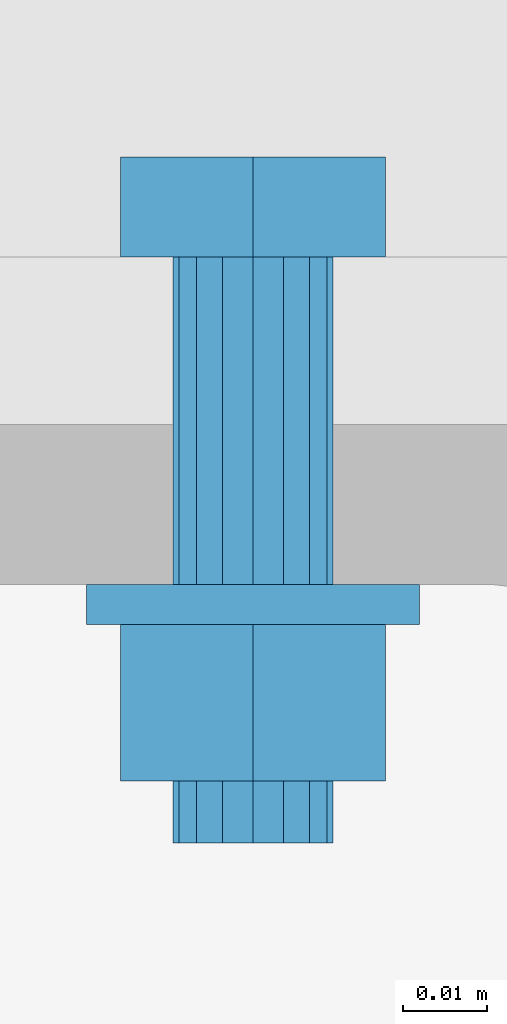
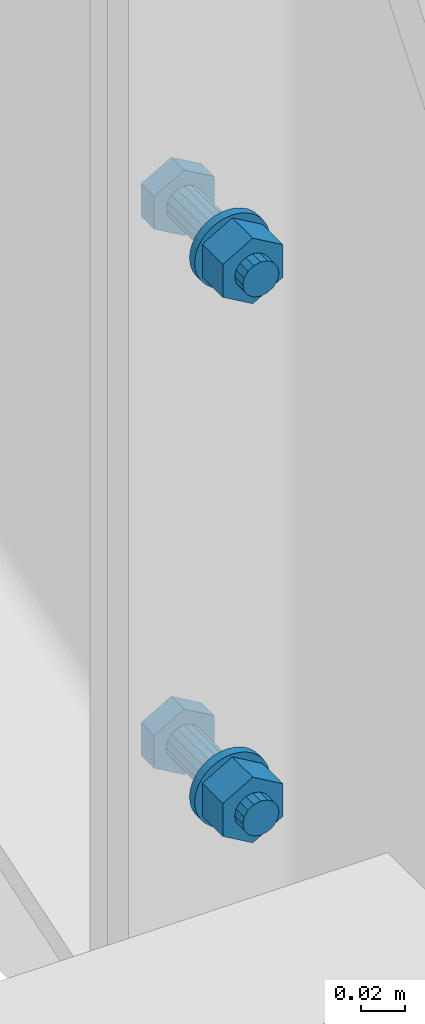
# Not in any storey, part 14 of 51: 2 mechanical fasteners.
"""IFC4 model written with IfcOpenShell, lengths in feet."""

from ifc_helpers import new_model, entity, si_unit, converted_unit, direction, origin, origin_with_axes, place, context, project, spatial, faceted_brep, element, save


model = new_model("IFC4")

# Units and contexts
model_context = context("Model", 3, precision=0.0001, world=origin(), true_north=direction((6.123233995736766e-17, 1.0)))
ifc_project = project(units=[converted_unit("LENGTHUNIT", "FOOT", entity("IfcLengthMeasure", 0.3048), si_unit("LENGTHUNIT", "METRE"), dimensions=[1, 0, 0, 0, 0, 0, 0]), converted_unit("AREAUNIT", "SQUARE INCH", entity("IfcAreaMeasure", 0.0006451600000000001), si_unit("AREAUNIT", "SQUARE_METRE"), dimensions=[2, 0, 0, 0, 0, 0, 0]), converted_unit("PLANEANGLEUNIT", "DEGREE", entity("IfcPlaneAngleMeasure", 0.017453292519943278), si_unit("PLANEANGLEUNIT", "RADIAN"), dimensions=[0, 0, 0, 0, 0, 0, 0]), si_unit("VOLUMEUNIT", "CUBIC_METRE")], contexts=[model_context])

# Site
site_placement = place(None, origin())
site = spatial("IfcSite", under=ifc_project, at=site_placement, Name="Default", CompositionType="ELEMENT")

# Mechanical fasteners
mechanical_fastener_1_placement = place(site_placement, origin_with_axes())
element("IfcMechanicalFastener", 1, at=mechanical_fastener_1_placement, inside=site, ObjectType="Bolt#5", NominalDiameter=0.0625, NominalLength=0.22916666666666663, context=model_context, shape_type="Brep", body=[
    faceted_brep([(27.460231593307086, 6.28730066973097, 17.178057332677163), (27.460231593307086, 6.326363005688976, 17.178057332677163), (27.512102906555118, 6.326363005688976, 17.148109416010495), (27.512102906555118, 6.28730066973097, 17.148109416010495), (27.56397421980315, 6.326363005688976, 17.178057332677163), (27.56397421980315, 6.28730066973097, 17.178057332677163), (27.56397421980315, 6.326363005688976, 17.2379531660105), (27.56397421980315, 6.28730066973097, 17.2379531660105), (27.512102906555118, 6.326363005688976, 17.267901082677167), (27.512102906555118, 6.28730066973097, 17.267901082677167), (27.460231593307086, 6.326363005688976, 17.2379531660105), (27.460231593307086, 6.28730066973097, 17.2379531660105)], [[[0, 1, 2, 3]], [[3, 2, 4, 5]], [[5, 4, 6, 7]], [[7, 6, 8, 9]], [[9, 8, 10, 11]], [[11, 10, 1, 0]], [[4, 2, 1, 10, 8, 6]], [[0, 3, 5, 7, 9, 11]]]),
    faceted_brep([(27.543352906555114, 6.28730066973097, 17.20800524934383), (27.543352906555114, 6.159183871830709, 17.20800524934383), (27.540974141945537, 6.159183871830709, 17.196046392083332), (27.540974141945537, 6.28730066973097, 17.196046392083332), (27.534199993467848, 6.159183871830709, 17.185908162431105), (27.534199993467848, 6.28730066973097, 17.185908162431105), (27.524061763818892, 6.159183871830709, 17.17913401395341), (27.524061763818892, 6.28730066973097, 17.17913401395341), (27.512102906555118, 6.159183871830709, 17.17675524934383), (27.512102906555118, 6.28730066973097, 17.17675524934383), (27.500144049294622, 6.159183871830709, 17.17913401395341), (27.500144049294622, 6.28730066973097, 17.17913401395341), (27.490005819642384, 6.159183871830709, 17.185908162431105), (27.490005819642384, 6.28730066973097, 17.185908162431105), (27.483231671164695, 6.159183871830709, 17.196046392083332), (27.483231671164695, 6.28730066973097, 17.196046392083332), (27.480852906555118, 6.159183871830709, 17.20800524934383), (27.480852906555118, 6.28730066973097, 17.20800524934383), (27.483231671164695, 6.159183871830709, 17.21996410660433), (27.483231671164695, 6.28730066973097, 17.21996410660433), (27.490005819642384, 6.159183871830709, 17.23010233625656), (27.490005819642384, 6.28730066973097, 17.23010233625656), (27.500144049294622, 6.159183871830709, 17.236876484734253), (27.500144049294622, 6.28730066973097, 17.236876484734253), (27.512102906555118, 6.159183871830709, 17.23925524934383), (27.512102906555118, 6.28730066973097, 17.23925524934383), (27.524061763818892, 6.159183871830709, 17.236876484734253), (27.524061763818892, 6.28730066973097, 17.236876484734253), (27.534199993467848, 6.159183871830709, 17.23010233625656), (27.534199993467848, 6.28730066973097, 17.23010233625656), (27.540974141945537, 6.159183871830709, 17.21996410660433), (27.540974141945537, 6.28730066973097, 17.21996410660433)], [[[0, 1, 2, 3]], [[3, 2, 4, 5]], [[5, 4, 6, 7]], [[7, 6, 8, 9]], [[9, 8, 10, 11]], [[11, 10, 12, 13]], [[13, 12, 14, 15]], [[15, 14, 16, 17]], [[17, 16, 18, 19]], [[19, 18, 20, 21]], [[21, 20, 22, 23]], [[23, 22, 24, 25]], [[25, 24, 26, 27]], [[27, 26, 28, 29]], [[29, 28, 30, 31]], [[31, 30, 1, 0]], [[0, 3, 5, 7, 9, 11, 13, 15, 17, 19, 21, 23, 25, 27, 29, 31]], [[1, 30, 28, 26, 24, 22, 20, 18, 16, 14, 12, 10, 8, 6, 4, 2]]]),
    faceted_brep([(27.577207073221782, 6.159183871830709, 17.20800524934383), (27.577207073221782, 6.143558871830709, 17.20800524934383), (27.5759561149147, 6.143558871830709, 17.195304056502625), (27.5759561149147, 6.159183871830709, 17.195304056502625), (27.572251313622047, 6.143558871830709, 17.183090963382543), (27.572251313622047, 6.159183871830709, 17.183090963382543), (27.56623504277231, 6.143558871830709, 17.171835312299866), (27.56623504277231, 6.159183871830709, 17.171835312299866), (27.55813850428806, 6.143558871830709, 17.161969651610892), (27.55813850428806, 6.159183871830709, 17.161969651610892), (27.54827284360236, 6.143558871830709, 17.15387311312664), (27.54827284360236, 6.159183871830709, 17.15387311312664), (27.537017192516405, 6.143558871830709, 17.147856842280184), (27.537017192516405, 6.159183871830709, 17.147856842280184), (27.524804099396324, 6.143558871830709, 17.144152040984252), (27.524804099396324, 6.159183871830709, 17.144152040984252), (27.512102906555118, 6.143558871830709, 17.142901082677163), (27.512102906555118, 6.159183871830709, 17.142901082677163), (27.49940171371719, 6.143558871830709, 17.144152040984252), (27.49940171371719, 6.159183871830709, 17.144152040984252), (27.48718862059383, 6.143558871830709, 17.147856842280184), (27.48718862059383, 6.159183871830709, 17.147856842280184), (27.475932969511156, 6.143558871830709, 17.15387311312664), (27.475932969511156, 6.159183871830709, 17.15387311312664), (27.46606730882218, 6.143558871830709, 17.161969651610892), (27.46606730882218, 6.159183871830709, 17.161969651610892), (27.45797077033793, 6.143558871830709, 17.171835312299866), (27.45797077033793, 6.159183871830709, 17.171835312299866), (27.45195449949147, 6.143558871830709, 17.183090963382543), (27.45195449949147, 6.159183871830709, 17.183090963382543), (27.44824969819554, 6.143558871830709, 17.195304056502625), (27.44824969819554, 6.159183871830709, 17.195304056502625), (27.44699873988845, 6.143558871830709, 17.20800524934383), (27.44699873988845, 6.159183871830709, 17.20800524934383), (27.44824969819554, 6.143558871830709, 17.220706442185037), (27.44824969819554, 6.159183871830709, 17.220706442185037), (27.45195449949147, 6.143558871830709, 17.23291953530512), (27.45195449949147, 6.159183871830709, 17.23291953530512), (27.45797077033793, 6.143558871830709, 17.244175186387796), (27.45797077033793, 6.159183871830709, 17.244175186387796), (27.46606730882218, 6.143558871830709, 17.254040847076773), (27.46606730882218, 6.159183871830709, 17.254040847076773), (27.475932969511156, 6.143558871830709, 17.262137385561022), (27.475932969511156, 6.159183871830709, 17.262137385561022), (27.48718862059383, 6.143558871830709, 17.268153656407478), (27.48718862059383, 6.159183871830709, 17.268153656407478), (27.49940171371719, 6.143558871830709, 17.271858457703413), (27.49940171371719, 6.159183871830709, 17.271858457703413), (27.512102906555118, 6.143558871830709, 17.2731094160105), (27.512102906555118, 6.159183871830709, 17.2731094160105), (27.524804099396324, 6.143558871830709, 17.271858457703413), (27.524804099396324, 6.159183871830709, 17.271858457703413), (27.537017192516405, 6.143558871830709, 17.268153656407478), (27.537017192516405, 6.159183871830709, 17.268153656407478), (27.54827284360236, 6.143558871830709, 17.262137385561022), (27.54827284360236, 6.159183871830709, 17.262137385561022), (27.55813850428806, 6.143558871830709, 17.254040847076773), (27.55813850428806, 6.159183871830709, 17.254040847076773), (27.56623504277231, 6.143558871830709, 17.244175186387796), (27.56623504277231, 6.159183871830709, 17.244175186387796), (27.572251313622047, 6.143558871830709, 17.23291953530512), (27.572251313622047, 6.159183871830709, 17.23291953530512), (27.5759561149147, 6.143558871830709, 17.220706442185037), (27.5759561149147, 6.159183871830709, 17.220706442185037)], [[[0, 1, 2, 3]], [[3, 2, 4, 5]], [[5, 4, 6, 7]], [[7, 6, 8, 9]], [[9, 8, 10, 11]], [[11, 10, 12, 13]], [[13, 12, 14, 15]], [[15, 14, 16, 17]], [[17, 16, 18, 19]], [[19, 18, 20, 21]], [[21, 20, 22, 23]], [[23, 22, 24, 25]], [[25, 24, 26, 27]], [[27, 26, 28, 29]], [[29, 28, 30, 31]], [[31, 30, 32, 33]], [[33, 32, 34, 35]], [[35, 34, 36, 37]], [[37, 36, 38, 39]], [[39, 38, 40, 41]], [[41, 40, 42, 43]], [[43, 42, 44, 45]], [[45, 44, 46, 47]], [[47, 46, 48, 49]], [[49, 48, 50, 51]], [[51, 50, 52, 53]], [[53, 52, 54, 55]], [[55, 54, 56, 57]], [[57, 56, 58, 59]], [[59, 58, 60, 61]], [[61, 60, 62, 63]], [[63, 62, 1, 0]], [[0, 3, 5, 7, 9, 11, 13, 15, 17, 19, 21, 23, 25, 27, 29, 31, 33, 35, 37, 39, 41, 43, 45, 47, 49, 51, 53, 55, 57, 59, 61, 63]], [[1, 62, 60, 58, 56, 54, 52, 50, 48, 46, 44, 42, 40, 38, 36, 34, 32, 30, 28, 26, 24, 22, 20, 18, 16, 14, 12, 10, 8, 6, 4, 2]]]),
    faceted_brep([(27.460231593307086, 6.082361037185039, 17.178057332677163), (27.460231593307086, 6.143558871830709, 17.178057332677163), (27.512102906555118, 6.143558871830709, 17.148109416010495), (27.512102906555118, 6.082361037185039, 17.148109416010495), (27.56397421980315, 6.143558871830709, 17.178057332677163), (27.56397421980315, 6.082361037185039, 17.178057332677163), (27.56397421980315, 6.143558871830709, 17.2379531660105), (27.56397421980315, 6.082361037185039, 17.2379531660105), (27.512102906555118, 6.143558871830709, 17.267901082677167), (27.512102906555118, 6.082361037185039, 17.267901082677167), (27.460231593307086, 6.143558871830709, 17.2379531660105), (27.460231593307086, 6.082361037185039, 17.2379531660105)], [[[0, 1, 2, 3]], [[3, 2, 4, 5]], [[5, 4, 6, 7]], [[7, 6, 8, 9]], [[9, 8, 10, 11]], [[11, 10, 1, 0]], [[4, 2, 1, 10, 8, 6]], [[0, 3, 5, 7, 9, 11]]]),
    faceted_brep([(27.543352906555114, 6.082361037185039, 17.20800524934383), (27.543352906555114, 6.058134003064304, 17.20800524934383), (27.540974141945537, 6.058134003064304, 17.196046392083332), (27.540974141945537, 6.082361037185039, 17.196046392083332), (27.534199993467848, 6.058134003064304, 17.185908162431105), (27.534199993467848, 6.082361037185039, 17.185908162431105), (27.524061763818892, 6.058134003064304, 17.17913401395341), (27.524061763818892, 6.082361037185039, 17.17913401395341), (27.512102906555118, 6.058134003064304, 17.17675524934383), (27.512102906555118, 6.082361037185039, 17.17675524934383), (27.500144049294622, 6.058134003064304, 17.17913401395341), (27.500144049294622, 6.082361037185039, 17.17913401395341), (27.490005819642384, 6.058134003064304, 17.185908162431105), (27.490005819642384, 6.082361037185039, 17.185908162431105), (27.483231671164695, 6.058134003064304, 17.196046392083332), (27.483231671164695, 6.082361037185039, 17.196046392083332), (27.480852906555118, 6.058134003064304, 17.20800524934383), (27.480852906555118, 6.082361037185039, 17.20800524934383), (27.483231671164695, 6.058134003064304, 17.21996410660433), (27.483231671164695, 6.082361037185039, 17.21996410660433), (27.490005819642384, 6.058134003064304, 17.23010233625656), (27.490005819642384, 6.082361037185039, 17.23010233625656), (27.500144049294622, 6.058134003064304, 17.236876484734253), (27.500144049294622, 6.082361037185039, 17.236876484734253), (27.512102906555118, 6.058134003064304, 17.23925524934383), (27.512102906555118, 6.082361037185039, 17.23925524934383), (27.524061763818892, 6.058134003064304, 17.236876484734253), (27.524061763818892, 6.082361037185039, 17.236876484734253), (27.534199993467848, 6.058134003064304, 17.23010233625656), (27.534199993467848, 6.082361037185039, 17.23010233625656), (27.540974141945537, 6.058134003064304, 17.21996410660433), (27.540974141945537, 6.082361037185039, 17.21996410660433)], [[[0, 1, 2, 3]], [[3, 2, 4, 5]], [[5, 4, 6, 7]], [[7, 6, 8, 9]], [[9, 8, 10, 11]], [[11, 10, 12, 13]], [[13, 12, 14, 15]], [[15, 14, 16, 17]], [[17, 16, 18, 19]], [[19, 18, 20, 21]], [[21, 20, 22, 23]], [[23, 22, 24, 25]], [[25, 24, 26, 27]], [[27, 26, 28, 29]], [[29, 28, 30, 31]], [[31, 30, 1, 0]], [[0, 3, 5, 7, 9, 11, 13, 15, 17, 19, 21, 23, 25, 27, 29, 31]], [[1, 30, 28, 26, 24, 22, 20, 18, 16, 14, 12, 10, 8, 6, 4, 2]]]),
])
mechanical_fastener_2_placement = place(site_placement, origin_with_axes())
element("IfcMechanicalFastener", 2, at=mechanical_fastener_2_placement, inside=site, ObjectType="Bolt#6", NominalDiameter=0.0625, NominalLength=0.22916666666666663, context=model_context, shape_type="Brep", body=[
    faceted_brep([(27.460231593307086, 6.28730066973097, 16.193805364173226), (27.460231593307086, 6.326363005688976, 16.193805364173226), (27.512102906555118, 6.326363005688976, 16.163857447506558), (27.512102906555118, 6.28730066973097, 16.163857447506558), (27.56397421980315, 6.326363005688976, 16.193805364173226), (27.56397421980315, 6.28730066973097, 16.193805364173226), (27.56397421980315, 6.326363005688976, 16.25370119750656), (27.56397421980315, 6.28730066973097, 16.25370119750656), (27.512102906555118, 6.326363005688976, 16.28364911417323), (27.512102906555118, 6.28730066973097, 16.28364911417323), (27.460231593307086, 6.326363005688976, 16.25370119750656), (27.460231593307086, 6.28730066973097, 16.25370119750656)], [[[0, 1, 2, 3]], [[3, 2, 4, 5]], [[5, 4, 6, 7]], [[7, 6, 8, 9]], [[9, 8, 10, 11]], [[11, 10, 1, 0]], [[4, 2, 1, 10, 8, 6]], [[0, 3, 5, 7, 9, 11]]]),
    faceted_brep([(27.543352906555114, 6.28730066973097, 16.223753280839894), (27.543352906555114, 6.159183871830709, 16.223753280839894), (27.540974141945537, 6.159183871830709, 16.211794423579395), (27.540974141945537, 6.28730066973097, 16.211794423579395), (27.534199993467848, 6.159183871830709, 16.201656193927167), (27.534199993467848, 6.28730066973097, 16.201656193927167), (27.524061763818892, 6.159183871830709, 16.19488204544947), (27.524061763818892, 6.28730066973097, 16.19488204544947), (27.512102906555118, 6.159183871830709, 16.192503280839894), (27.512102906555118, 6.28730066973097, 16.192503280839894), (27.500144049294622, 6.159183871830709, 16.19488204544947), (27.500144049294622, 6.28730066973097, 16.19488204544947), (27.490005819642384, 6.159183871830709, 16.201656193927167), (27.490005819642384, 6.28730066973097, 16.201656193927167), (27.483231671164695, 6.159183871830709, 16.211794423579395), (27.483231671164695, 6.28730066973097, 16.211794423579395), (27.480852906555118, 6.159183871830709, 16.223753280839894), (27.480852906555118, 6.28730066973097, 16.223753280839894), (27.483231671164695, 6.159183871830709, 16.235712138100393), (27.483231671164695, 6.28730066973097, 16.235712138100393), (27.490005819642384, 6.159183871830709, 16.245850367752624), (27.490005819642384, 6.28730066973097, 16.245850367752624), (27.500144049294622, 6.159183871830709, 16.252624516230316), (27.500144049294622, 6.28730066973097, 16.252624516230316), (27.512102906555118, 6.159183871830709, 16.255003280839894), (27.512102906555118, 6.28730066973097, 16.255003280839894), (27.524061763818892, 6.159183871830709, 16.252624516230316), (27.524061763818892, 6.28730066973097, 16.252624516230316), (27.534199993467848, 6.159183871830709, 16.245850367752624), (27.534199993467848, 6.28730066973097, 16.245850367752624), (27.540974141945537, 6.159183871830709, 16.235712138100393), (27.540974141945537, 6.28730066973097, 16.235712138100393)], [[[0, 1, 2, 3]], [[3, 2, 4, 5]], [[5, 4, 6, 7]], [[7, 6, 8, 9]], [[9, 8, 10, 11]], [[11, 10, 12, 13]], [[13, 12, 14, 15]], [[15, 14, 16, 17]], [[17, 16, 18, 19]], [[19, 18, 20, 21]], [[21, 20, 22, 23]], [[23, 22, 24, 25]], [[25, 24, 26, 27]], [[27, 26, 28, 29]], [[29, 28, 30, 31]], [[31, 30, 1, 0]], [[0, 3, 5, 7, 9, 11, 13, 15, 17, 19, 21, 23, 25, 27, 29, 31]], [[1, 30, 28, 26, 24, 22, 20, 18, 16, 14, 12, 10, 8, 6, 4, 2]]]),
    faceted_brep([(27.577207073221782, 6.159183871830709, 16.223753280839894), (27.577207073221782, 6.143558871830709, 16.223753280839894), (27.5759561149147, 6.143558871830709, 16.211052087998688), (27.5759561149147, 6.159183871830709, 16.211052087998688), (27.572251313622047, 6.143558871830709, 16.198838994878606), (27.572251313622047, 6.159183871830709, 16.198838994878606), (27.56623504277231, 6.143558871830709, 16.18758334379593), (27.56623504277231, 6.159183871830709, 16.18758334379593), (27.55813850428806, 6.143558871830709, 16.177717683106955), (27.55813850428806, 6.159183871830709, 16.177717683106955), (27.54827284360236, 6.143558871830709, 16.169621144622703), (27.54827284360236, 6.159183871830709, 16.169621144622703), (27.537017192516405, 6.143558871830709, 16.163604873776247), (27.537017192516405, 6.159183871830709, 16.163604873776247), (27.524804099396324, 6.143558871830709, 16.159900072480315), (27.524804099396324, 6.159183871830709, 16.159900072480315), (27.512102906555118, 6.143558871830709, 16.158649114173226), (27.512102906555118, 6.159183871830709, 16.158649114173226), (27.49940171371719, 6.143558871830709, 16.159900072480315), (27.49940171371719, 6.159183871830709, 16.159900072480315), (27.48718862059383, 6.143558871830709, 16.163604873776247), (27.48718862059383, 6.159183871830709, 16.163604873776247), (27.475932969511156, 6.143558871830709, 16.169621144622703), (27.475932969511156, 6.159183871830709, 16.169621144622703), (27.46606730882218, 6.143558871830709, 16.177717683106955), (27.46606730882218, 6.159183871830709, 16.177717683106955), (27.45797077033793, 6.143558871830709, 16.18758334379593), (27.45797077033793, 6.159183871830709, 16.18758334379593), (27.45195449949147, 6.143558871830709, 16.198838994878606), (27.45195449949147, 6.159183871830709, 16.198838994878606), (27.44824969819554, 6.143558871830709, 16.211052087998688), (27.44824969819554, 6.159183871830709, 16.211052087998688), (27.44699873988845, 6.143558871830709, 16.223753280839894), (27.44699873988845, 6.159183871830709, 16.223753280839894), (27.44824969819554, 6.143558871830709, 16.2364544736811), (27.44824969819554, 6.159183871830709, 16.2364544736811), (27.45195449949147, 6.143558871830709, 16.24866756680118), (27.45195449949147, 6.159183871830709, 16.24866756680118), (27.45797077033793, 6.143558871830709, 16.25992321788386), (27.45797077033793, 6.159183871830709, 16.25992321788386), (27.46606730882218, 6.143558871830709, 16.269788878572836), (27.46606730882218, 6.159183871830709, 16.269788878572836), (27.475932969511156, 6.143558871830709, 16.277885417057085), (27.475932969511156, 6.159183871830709, 16.277885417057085), (27.48718862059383, 6.143558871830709, 16.28390168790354), (27.48718862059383, 6.159183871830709, 16.28390168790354), (27.49940171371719, 6.143558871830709, 16.287606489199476), (27.49940171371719, 6.159183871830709, 16.287606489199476), (27.512102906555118, 6.143558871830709, 16.28885744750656), (27.512102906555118, 6.159183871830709, 16.28885744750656), (27.524804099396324, 6.143558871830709, 16.287606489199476), (27.524804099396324, 6.159183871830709, 16.287606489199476), (27.537017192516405, 6.143558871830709, 16.28390168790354), (27.537017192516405, 6.159183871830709, 16.28390168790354), (27.54827284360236, 6.143558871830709, 16.277885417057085), (27.54827284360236, 6.159183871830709, 16.277885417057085), (27.55813850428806, 6.143558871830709, 16.269788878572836), (27.55813850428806, 6.159183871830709, 16.269788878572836), (27.56623504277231, 6.143558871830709, 16.25992321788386), (27.56623504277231, 6.159183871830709, 16.25992321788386), (27.572251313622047, 6.143558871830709, 16.24866756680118), (27.572251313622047, 6.159183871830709, 16.24866756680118), (27.5759561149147, 6.143558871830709, 16.2364544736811), (27.5759561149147, 6.159183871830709, 16.2364544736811)], [[[0, 1, 2, 3]], [[3, 2, 4, 5]], [[5, 4, 6, 7]], [[7, 6, 8, 9]], [[9, 8, 10, 11]], [[11, 10, 12, 13]], [[13, 12, 14, 15]], [[15, 14, 16, 17]], [[17, 16, 18, 19]], [[19, 18, 20, 21]], [[21, 20, 22, 23]], [[23, 22, 24, 25]], [[25, 24, 26, 27]], [[27, 26, 28, 29]], [[29, 28, 30, 31]], [[31, 30, 32, 33]], [[33, 32, 34, 35]], [[35, 34, 36, 37]], [[37, 36, 38, 39]], [[39, 38, 40, 41]], [[41, 40, 42, 43]], [[43, 42, 44, 45]], [[45, 44, 46, 47]], [[47, 46, 48, 49]], [[49, 48, 50, 51]], [[51, 50, 52, 53]], [[53, 52, 54, 55]], [[55, 54, 56, 57]], [[57, 56, 58, 59]], [[59, 58, 60, 61]], [[61, 60, 62, 63]], [[63, 62, 1, 0]], [[0, 3, 5, 7, 9, 11, 13, 15, 17, 19, 21, 23, 25, 27, 29, 31, 33, 35, 37, 39, 41, 43, 45, 47, 49, 51, 53, 55, 57, 59, 61, 63]], [[1, 62, 60, 58, 56, 54, 52, 50, 48, 46, 44, 42, 40, 38, 36, 34, 32, 30, 28, 26, 24, 22, 20, 18, 16, 14, 12, 10, 8, 6, 4, 2]]]),
    faceted_brep([(27.460231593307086, 6.082361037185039, 16.193805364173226), (27.460231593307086, 6.143558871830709, 16.193805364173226), (27.512102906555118, 6.143558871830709, 16.163857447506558), (27.512102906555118, 6.082361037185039, 16.163857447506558), (27.56397421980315, 6.143558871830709, 16.193805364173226), (27.56397421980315, 6.082361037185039, 16.193805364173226), (27.56397421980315, 6.143558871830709, 16.25370119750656), (27.56397421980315, 6.082361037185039, 16.25370119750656), (27.512102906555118, 6.143558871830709, 16.28364911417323), (27.512102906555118, 6.082361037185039, 16.28364911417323), (27.460231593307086, 6.143558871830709, 16.25370119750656), (27.460231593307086, 6.082361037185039, 16.25370119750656)], [[[0, 1, 2, 3]], [[3, 2, 4, 5]], [[5, 4, 6, 7]], [[7, 6, 8, 9]], [[9, 8, 10, 11]], [[11, 10, 1, 0]], [[4, 2, 1, 10, 8, 6]], [[0, 3, 5, 7, 9, 11]]]),
    faceted_brep([(27.543352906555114, 6.082361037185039, 16.223753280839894), (27.543352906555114, 6.058134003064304, 16.223753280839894), (27.540974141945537, 6.058134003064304, 16.211794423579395), (27.540974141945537, 6.082361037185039, 16.211794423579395), (27.534199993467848, 6.058134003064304, 16.201656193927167), (27.534199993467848, 6.082361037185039, 16.201656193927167), (27.524061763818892, 6.058134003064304, 16.19488204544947), (27.524061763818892, 6.082361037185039, 16.19488204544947), (27.512102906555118, 6.058134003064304, 16.192503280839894), (27.512102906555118, 6.082361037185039, 16.192503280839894), (27.500144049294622, 6.058134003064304, 16.19488204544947), (27.500144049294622, 6.082361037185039, 16.19488204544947), (27.490005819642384, 6.058134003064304, 16.201656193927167), (27.490005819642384, 6.082361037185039, 16.201656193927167), (27.483231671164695, 6.058134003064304, 16.211794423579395), (27.483231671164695, 6.082361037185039, 16.211794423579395), (27.480852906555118, 6.058134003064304, 16.223753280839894), (27.480852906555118, 6.082361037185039, 16.223753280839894), (27.483231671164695, 6.058134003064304, 16.235712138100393), (27.483231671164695, 6.082361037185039, 16.235712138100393), (27.490005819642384, 6.058134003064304, 16.245850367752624), (27.490005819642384, 6.082361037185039, 16.245850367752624), (27.500144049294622, 6.058134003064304, 16.252624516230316), (27.500144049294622, 6.082361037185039, 16.252624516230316), (27.512102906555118, 6.058134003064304, 16.255003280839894), (27.512102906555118, 6.082361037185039, 16.255003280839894), (27.524061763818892, 6.058134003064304, 16.252624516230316), (27.524061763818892, 6.082361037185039, 16.252624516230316), (27.534199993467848, 6.058134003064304, 16.245850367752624), (27.534199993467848, 6.082361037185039, 16.245850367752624), (27.540974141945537, 6.058134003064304, 16.235712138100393), (27.540974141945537, 6.082361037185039, 16.235712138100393)], [[[0, 1, 2, 3]], [[3, 2, 4, 5]], [[5, 4, 6, 7]], [[7, 6, 8, 9]], [[9, 8, 10, 11]], [[11, 10, 12, 13]], [[13, 12, 14, 15]], [[15, 14, 16, 17]], [[17, 16, 18, 19]], [[19, 18, 20, 21]], [[21, 20, 22, 23]], [[23, 22, 24, 25]], [[25, 24, 26, 27]], [[27, 26, 28, 29]], [[29, 28, 30, 31]], [[31, 30, 1, 0]], [[0, 3, 5, 7, 9, 11, 13, 15, 17, 19, 21, 23, 25, 27, 29, 31]], [[1, 30, 28, 26, 24, 22, 20, 18, 16, 14, 12, 10, 8, 6, 4, 2]]]),
])

save(model, "model.ifc")
